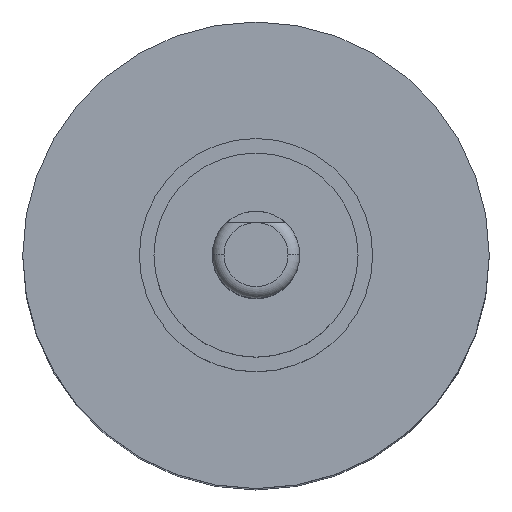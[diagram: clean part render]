
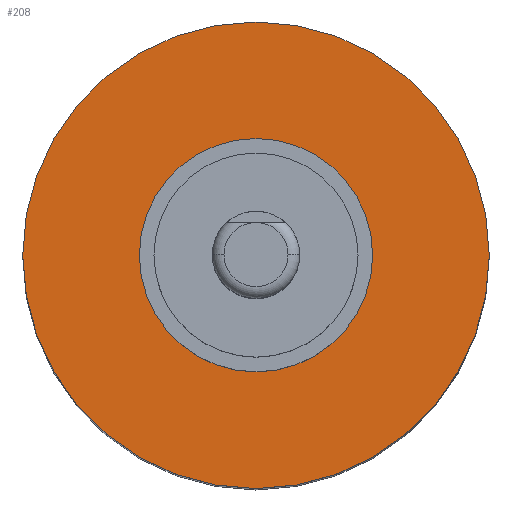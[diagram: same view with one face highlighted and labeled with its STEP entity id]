
A CAD part, top view. The second image highlights one B-rep face of the part: STEP entity #208.
In plain terms, the highlighted planar face has unit normal (0, 0, 1).
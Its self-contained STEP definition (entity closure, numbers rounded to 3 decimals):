
#28 = DIRECTION ( 'NONE',  ( 0., 0., 1. ) ) ;
#30 = ORIENTED_EDGE ( 'NONE', *, *, #245, .T. ) ;
#54 = CARTESIAN_POINT ( 'NONE',  ( 0., 4., -6. ) ) ;
#65 = DIRECTION ( 'NONE',  ( 0., 0., 1. ) ) ;
#81 = AXIS2_PLACEMENT_3D ( 'NONE', #504, #65, #206 ) ;
#129 = PLANE ( 'NONE',  #226 ) ;
#198 = EDGE_LOOP ( 'NONE', ( #522, #30 ) ) ;
#206 = DIRECTION ( 'NONE',  ( 0., -1., 0. ) ) ;
#208 = ADVANCED_FACE ( 'NONE', ( #579 ), #129, .T. ) ;
#226 = AXIS2_PLACEMENT_3D ( 'NONE', #433, #891, #654 ) ;
#245 = EDGE_CURVE ( 'NONE', #710, #868, #871, .T. ) ;
#306 = CIRCLE ( 'NONE', #81, 4. ) ;
#397 = AXIS2_PLACEMENT_3D ( 'NONE', #405, #28, #475 ) ;
#405 = CARTESIAN_POINT ( 'NONE',  ( 0., 0., -6. ) ) ;
#423 = CARTESIAN_POINT ( 'NONE',  ( 0., -4., -6. ) ) ;
#433 = CARTESIAN_POINT ( 'NONE',  ( 0., 0., -6. ) ) ;
#475 = DIRECTION ( 'NONE',  ( 0., -1., 0. ) ) ;
#504 = CARTESIAN_POINT ( 'NONE',  ( 0., 0., -6. ) ) ;
#522 = ORIENTED_EDGE ( 'NONE', *, *, #661, .T. ) ;
#579 = FACE_OUTER_BOUND ( 'NONE', #198, .T. ) ;
#654 = DIRECTION ( 'NONE',  ( 0., -1., 0. ) ) ;
#661 = EDGE_CURVE ( 'NONE', #868, #710, #306, .T. ) ;
#710 = VERTEX_POINT ( 'NONE', #54 ) ;
#868 = VERTEX_POINT ( 'NONE', #423 ) ;
#871 = CIRCLE ( 'NONE', #397, 4. ) ;
#891 = DIRECTION ( 'NONE',  ( 0., 0., 1. ) ) ;
